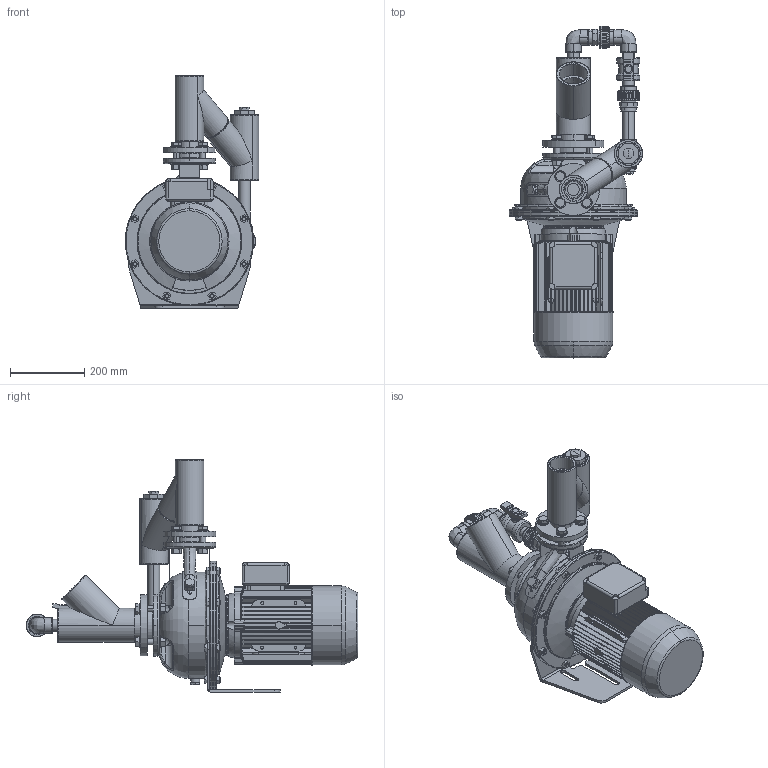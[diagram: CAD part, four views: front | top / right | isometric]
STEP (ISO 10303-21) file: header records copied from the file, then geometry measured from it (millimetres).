
FILE_DESCRIPTION (( 'STEP AP203' ), '1' );
FILE_NAME ('Lowara SHE 32-250 z.a.z handbed. by-pass.STEP', '2011-04-06T08:23:04', ( '' ), ( '' ), 'SwSTEP 2.0', 'SolidWorks 2010', '' );
FILE_SCHEMA (( 'CONFIG_CONTROL_DESIGN' ));
Products named in the file (1): Lowara SHE 32-250 z.a.z handbed. by-pass
Bounding box: 358.94 x 893.44 x 625.8 mm (x, y, z)
Volume: 24681868.9 mm3; surface area: 2313278.4 mm2
Topology: 61 solids, 63 shells, 2744 faces, 6979 edges, 4336 vertices
Faces by surface type: plane 1052, cylinder 843, cone 455, bspline 369, torus 25
Entity records: 115647 total; most frequent: CARTESIAN_POINT 53456, ORIENTED_EDGE 13710, DIRECTION 12036, EDGE_CURVE 6855, AXIS2_PLACEMENT_3D 4737, VERTEX_POINT 4340, EDGE_LOOP 3009, FACE_OUTER_BOUND 2744
